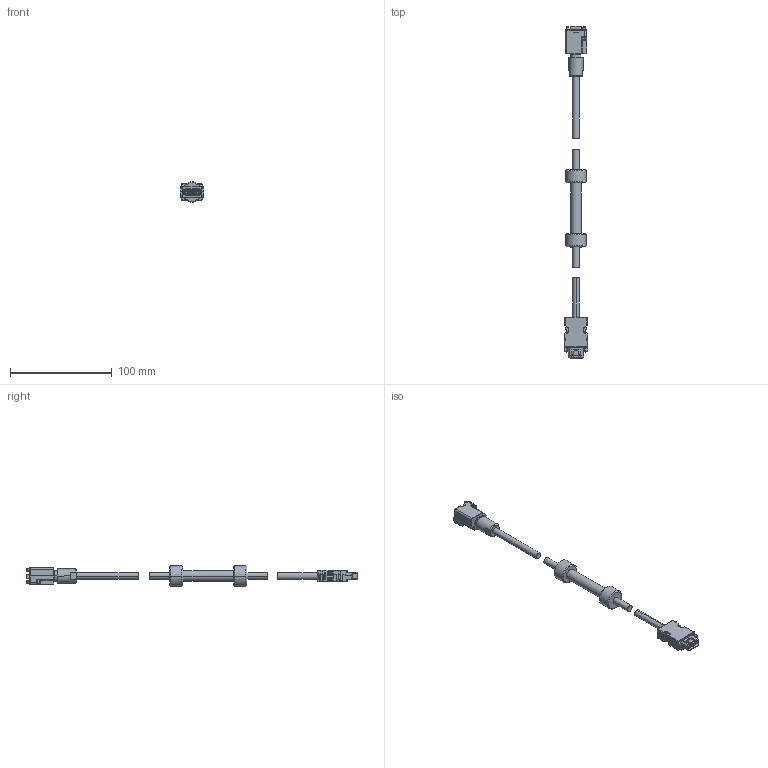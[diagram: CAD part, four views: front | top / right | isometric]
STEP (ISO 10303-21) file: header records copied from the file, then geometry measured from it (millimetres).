
FILE_DESCRIPTION(('Creo Elements/Direct Modeling STEP Export'),'2;1');
FILE_NAME('06AFX740_SignalCable_Conduit(Mitsubishi).stp','2018-10-16T18:17:50',(''),(''),'Creo Elements/Direct Modeling STEP processor for AP214 (Solid Model)','Creo Elements/Direct Modeling 18.1B 29-Sep-2012 (C) Parametric Technology GmbH','');
FILE_SCHEMA(('AUTOMOTIVE_DESIGN { 1 0 10303 214 1 1 1 1 }'));
Length unit declared in the file: millimetre
Products named in the file (4): Connector(Mitsubishi); Connector(AT1100); cable; 06AFX740_SignalCable_Conduit(Mitsubishi)
Assembly tree (3 placements, depth 2):
  06AFX740_SignalCable_Conduit(Mitsubishi)
    cable
    Connector(AT1100)
    Connector(Mitsubishi)
Bounding box: 22.7 x 325.99 x 20 mm (x, y, z)
Volume: 34892.3 mm3; surface area: 17072.6 mm2
Topology: 3 solids, 3 shells, 1054 faces, 2859 edges, 1801 vertices
Faces by surface type: plane 660, cylinder 300, torus 44, cone 26, sphere 12, bspline 8, extrusion 4
Entity records: 33506 total; most frequent: CARTESIAN_POINT 6799, ORIENTED_EDGE 5698, DIRECTION 5346, EDGE_CURVE 2847, VECTOR 2112, LINE 2108, VERTEX_POINT 1801, AXIS2_PLACEMENT_3D 1617
